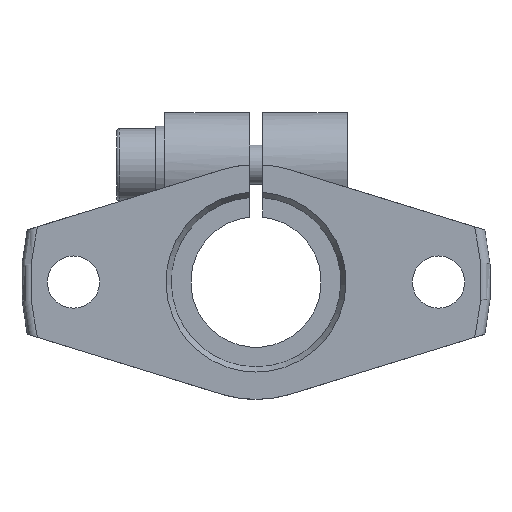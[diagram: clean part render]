
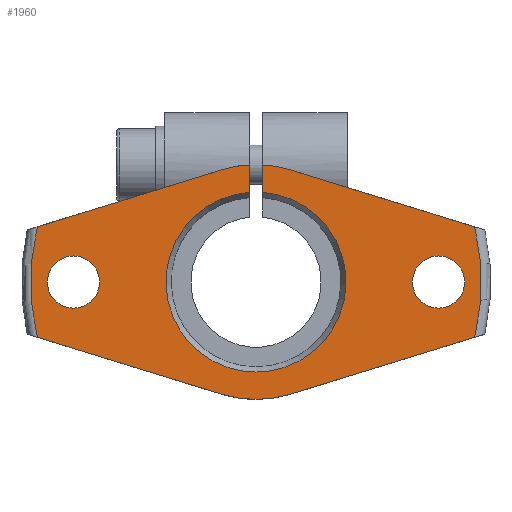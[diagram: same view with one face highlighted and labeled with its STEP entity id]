
A CAD part, left-side view. The second image highlights one B-rep face of the part: STEP entity #1960.
In plain terms, the highlighted planar face has unit normal (-1, 0, 0).
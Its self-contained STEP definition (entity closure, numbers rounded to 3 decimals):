
#481=CARTESIAN_POINT('',(0.0,-16.772,-4.24));
#482=VERTEX_POINT('',#481);
#516=CARTESIAN_POINT('',(0.0,-16.772,4.24));
#517=VERTEX_POINT('',#516);
#540=CARTESIAN_POINT('',(0.0,0.0,0.0));
#541=DIRECTION('',(1.0,0.0,0.0));
#542=DIRECTION('',(0.0,-1.0,0.0));
#543=AXIS2_PLACEMENT_3D('',#540,#541,#542);
#544=CIRCLE('',#543,17.3);
#545=EDGE_CURVE('',#517,#482,#544,.T.);
#613=CARTESIAN_POINT('',(0.0,-2.655,8.599));
#614=VERTEX_POINT('',#613);
#621=CARTESIAN_POINT('',(0.0,-2.655,8.599));
#622=DIRECTION('',(0.0,-0.955,-0.295));
#623=VECTOR('',#622,14.775);
#624=LINE('',#621,#623);
#625=EDGE_CURVE('',#614,#517,#624,.T.);
#660=CARTESIAN_POINT('',(0.0,16.772,4.24));
#661=VERTEX_POINT('',#660);
#695=CARTESIAN_POINT('',(0.0,16.772,-4.24));
#696=VERTEX_POINT('',#695);
#719=CARTESIAN_POINT('',(0.0,0.0,0.0));
#720=DIRECTION('',(1.0,0.0,0.0));
#721=DIRECTION('',(0.0,1.0,0.0));
#722=AXIS2_PLACEMENT_3D('',#719,#720,#721);
#723=CIRCLE('',#722,17.3);
#724=EDGE_CURVE('',#696,#661,#723,.T.);
#767=CARTESIAN_POINT('',(0.0,2.655,8.599));
#768=VERTEX_POINT('',#767);
#769=CARTESIAN_POINT('',(0.0,16.772,4.24));
#770=DIRECTION('',(0.0,-0.955,0.295));
#771=VECTOR('',#770,14.775);
#772=LINE('',#769,#771);
#773=EDGE_CURVE('',#661,#768,#772,.T.);
#1097=CARTESIAN_POINT('',(0.0,-2.655,-8.599));
#1098=VERTEX_POINT('',#1097);
#1105=CARTESIAN_POINT('',(0.0,2.655,-8.599));
#1106=VERTEX_POINT('',#1105);
#1107=CARTESIAN_POINT('',(0.0,0.0,0.0));
#1108=DIRECTION('',(1.0,0.0,0.0));
#1109=DIRECTION('',(0.0,1.0,0.0));
#1110=AXIS2_PLACEMENT_3D('',#1107,#1108,#1109);
#1111=CIRCLE('',#1110,9.0);
#1112=EDGE_CURVE('',#1098,#1106,#1111,.T.);
#1452=CARTESIAN_POINT('',(0.0,-0.5,6.886));
#1453=VERTEX_POINT('',#1452);
#1467=CARTESIAN_POINT('',(0.0,-0.5,8.986));
#1468=VERTEX_POINT('',#1467);
#1469=CARTESIAN_POINT('',(0.0,-0.5,8.986));
#1470=DIRECTION('',(0.0,0.0,-1.0));
#1471=VECTOR('',#1470,2.1);
#1472=LINE('',#1469,#1471);
#1473=EDGE_CURVE('',#1468,#1453,#1472,.T.);
#1505=CARTESIAN_POINT('',(0.0,16.,0.));
#1506=VERTEX_POINT('',#1505);
#1507=CARTESIAN_POINT('',(0.0,14.,0.));
#1508=DIRECTION('',(1.0,0.0,0.0));
#1509=DIRECTION('',(0.0,1.0,0.0));
#1510=AXIS2_PLACEMENT_3D('',#1507,#1508,#1509);
#1511=CIRCLE('',#1510,2.0);
#1512=EDGE_CURVE('',#1506,#1506,#1511,.T.);
#1533=CARTESIAN_POINT('',(0.0,-12.,0.));
#1534=VERTEX_POINT('',#1533);
#1535=CARTESIAN_POINT('',(0.0,-14.,0.));
#1536=DIRECTION('',(1.0,0.0,0.0));
#1537=DIRECTION('',(0.0,1.0,0.0));
#1538=AXIS2_PLACEMENT_3D('',#1535,#1536,#1537);
#1539=CIRCLE('',#1538,2.0);
#1540=EDGE_CURVE('',#1534,#1534,#1539,.T.);
#1719=CARTESIAN_POINT('',(0.0,0.5,6.886));
#1720=VERTEX_POINT('',#1719);
#1734=CARTESIAN_POINT('',(0.0,0.0,0.0));
#1735=DIRECTION('',(-1.0,0.0,0.0));
#1736=DIRECTION('',(0.0,0.0,-1.0));
#1737=AXIS2_PLACEMENT_3D('',#1734,#1735,#1736);
#1738=CIRCLE('',#1737,6.904);
#1739=EDGE_CURVE('',#1720,#1453,#1738,.T.);
#1800=CARTESIAN_POINT('',(0.0,0.5,8.986));
#1801=VERTEX_POINT('',#1800);
#1808=CARTESIAN_POINT('',(0.0,0.5,6.886));
#1809=DIRECTION('',(0.0,0.0,1.0));
#1810=VECTOR('',#1809,2.1);
#1811=LINE('',#1808,#1810);
#1812=EDGE_CURVE('',#1720,#1801,#1811,.T.);
#1897=CARTESIAN_POINT('',(0.0,0.0,0.0));
#1898=DIRECTION('',(1.0,0.0,0.0));
#1899=DIRECTION('',(0.0,1.0,0.0));
#1900=AXIS2_PLACEMENT_3D('',#1897,#1898,#1899);
#1901=CIRCLE('',#1900,9.0);
#1902=EDGE_CURVE('',#768,#1801,#1901,.T.);
#1913=CARTESIAN_POINT('',(0.0,0.0,0.0));
#1914=DIRECTION('',(1.0,0.0,0.0));
#1915=DIRECTION('',(0.0,1.0,0.0));
#1916=AXIS2_PLACEMENT_3D('',#1913,#1914,#1915);
#1917=CIRCLE('',#1916,9.0);
#1918=EDGE_CURVE('',#1468,#614,#1917,.T.);
#1925=CARTESIAN_POINT('',(0.0,-9.725,0.));
#1926=DIRECTION('',(1.0,0.0,0.0));
#1927=DIRECTION('',(0.0,0.0,-1.0));
#1928=AXIS2_PLACEMENT_3D('',#1925,#1926,#1927);
#1929=PLANE('',#1928);
#1930=ORIENTED_EDGE('',*,*,#545,.F.);
#1931=ORIENTED_EDGE('',*,*,#625,.F.);
#1932=ORIENTED_EDGE('',*,*,#1918,.F.);
#1933=ORIENTED_EDGE('',*,*,#1473,.T.);
#1934=ORIENTED_EDGE('',*,*,#1739,.F.);
#1935=ORIENTED_EDGE('',*,*,#1812,.T.);
#1936=ORIENTED_EDGE('',*,*,#1902,.F.);
#1937=ORIENTED_EDGE('',*,*,#773,.F.);
#1938=ORIENTED_EDGE('',*,*,#724,.F.);
#1939=CARTESIAN_POINT('',(0.0,2.655,-8.599));
#1940=DIRECTION('',(0.0,0.955,0.295));
#1941=VECTOR('',#1940,14.775);
#1942=LINE('',#1939,#1941);
#1943=EDGE_CURVE('',#1106,#696,#1942,.T.);
#1944=ORIENTED_EDGE('',*,*,#1943,.F.);
#1945=ORIENTED_EDGE('',*,*,#1112,.F.);
#1946=CARTESIAN_POINT('',(0.0,-16.772,-4.24));
#1947=DIRECTION('',(0.0,0.955,-0.295));
#1948=VECTOR('',#1947,14.775);
#1949=LINE('',#1946,#1948);
#1950=EDGE_CURVE('',#482,#1098,#1949,.T.);
#1951=ORIENTED_EDGE('',*,*,#1950,.F.);
#1952=EDGE_LOOP('',(#1930,#1931,#1932,#1933,#1934,#1935,#1936,#1937,#1938,#1944,#1945,#1951));
#1953=FACE_OUTER_BOUND('',#1952,.T.);
#1954=ORIENTED_EDGE('',*,*,#1512,.T.);
#1955=EDGE_LOOP('',(#1954));
#1956=FACE_BOUND('',#1955,.T.);
#1957=ORIENTED_EDGE('',*,*,#1540,.T.);
#1958=EDGE_LOOP('',(#1957));
#1959=FACE_BOUND('',#1958,.T.);
#1960=ADVANCED_FACE('',(#1953,#1956,#1959),#1929,.F.);
